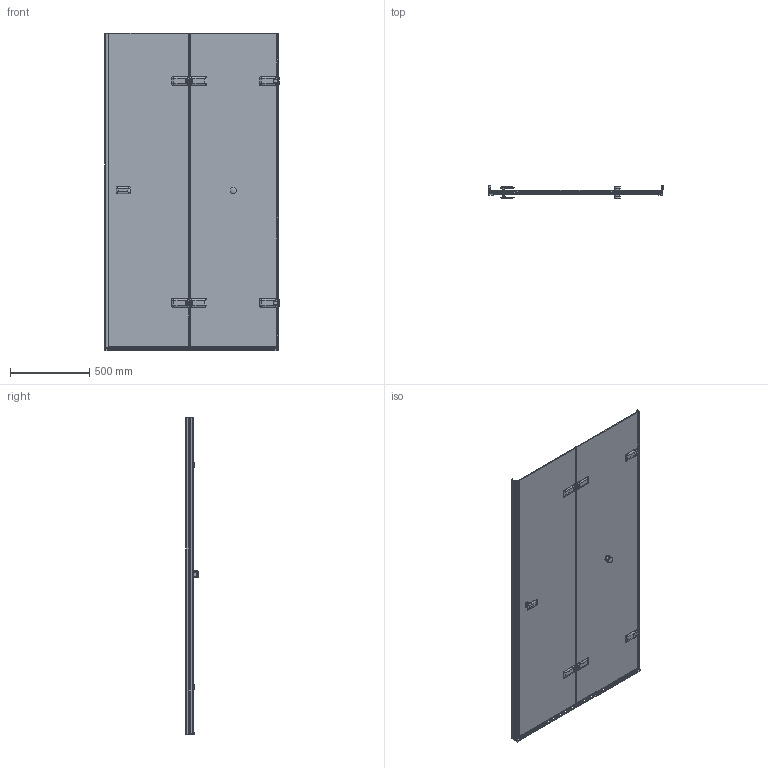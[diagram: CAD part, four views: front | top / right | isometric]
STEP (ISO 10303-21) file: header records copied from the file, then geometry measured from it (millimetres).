
FILE_DESCRIPTION(/* description */ (''),/* implementation_level */ '2;1');
FILE_NAME(/* name */ 'D:\7\TREND DOOR GK-862C\TREND DOOR GK-862C правая модель\TREND DOOR GK-862C ПРАВАЯ-3D.stp',/* time_stamp */ '2020-08-01T21:23:30+03:00',/* author */ ('User'),/* organization */ (''),/* preprocessor_version */ 'ST-DEVELOPER v15.2',/* originating_system */ 'Autodesk Inventor 2014',/* authorisation */ '');
FILE_SCHEMA (('AUTOMOTIVE_DESIGN { 1 0 10303 214 3 1 1 }'));
Products named in the file (1): TREND DOOR GK-862C ПРАВАЯ-3D
Bounding box: 1100 x 86 x 2001 mm (x, y, z)
Volume: 14749149.3 mm3; surface area: 5138362.9 mm2
Topology: 3 solids, 19 shells, 1985 faces, 5491 edges, 3579 vertices
Faces by surface type: plane 1162, cylinder 572, bspline 155, cone 48, torus 34, sphere 14
Full cylindrical faces by diameter (mm): 4 x2, 4.134 x2, 4.917 x2, 5 x6, 5.2 x2, 6 x8, 7 x2, 7.2 x4, 8 x3, 9 x8, 11 x3, 12 x2, 13 x6, 16 x6, 30 x2, 38 x4
Entity records: 80870 total; most frequent: CARTESIAN_POINT 29406, ORIENTED_EDGE 10390, DIRECTION 9992, EDGE_CURVE 5188, VERTEX_POINT 3346, LINE 3332, VECTOR 3332, AXIS2_PLACEMENT_3D 3330
